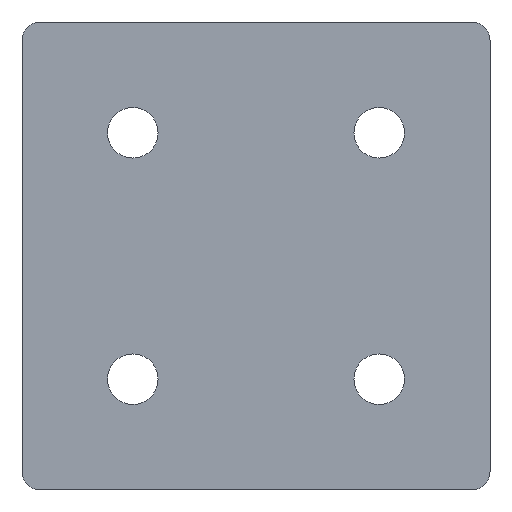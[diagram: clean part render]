
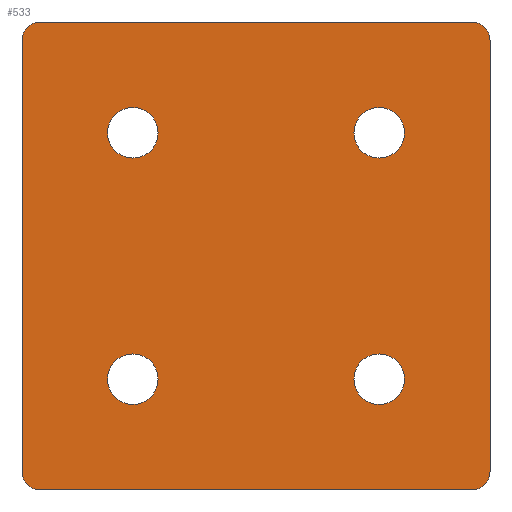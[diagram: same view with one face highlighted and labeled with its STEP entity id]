
A CAD part, front view. The second image highlights one B-rep face of the part: STEP entity #533.
In plain terms, the highlighted planar face has unit normal (0, -1, 0).
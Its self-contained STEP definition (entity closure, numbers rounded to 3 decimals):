
#1 = AXIS2_PLACEMENT_3D ( 'NONE', #100, #239, #466 ) ;
#6 = CARTESIAN_POINT ( 'NONE',  ( -20., 0., 40. ) ) ;
#18 = CARTESIAN_POINT ( 'NONE',  ( 20., 0., 35.9 ) ) ;
#21 = ORIENTED_EDGE ( 'NONE', *, *, #115, .T. ) ;
#24 = DIRECTION ( 'NONE',  ( 1., 0., 0. ) ) ;
#29 = DIRECTION ( 'NONE',  ( 0., 0., 1. ) ) ;
#30 = CIRCLE ( 'NONE', #267, 4.1 ) ;
#33 = CARTESIAN_POINT ( 'NONE',  ( 38., 0., 55. ) ) ;
#37 = ORIENTED_EDGE ( 'NONE', *, *, #93, .F. ) ;
#39 = DIRECTION ( 'NONE',  ( 0., 0., -1. ) ) ;
#40 = CARTESIAN_POINT ( 'NONE',  ( -38., 0., -18. ) ) ;
#44 = CARTESIAN_POINT ( 'NONE',  ( 20., 0., 4.1 ) ) ;
#58 = ORIENTED_EDGE ( 'NONE', *, *, #150, .T. ) ;
#62 = ORIENTED_EDGE ( 'NONE', *, *, #230, .T. ) ;
#66 = AXIS2_PLACEMENT_3D ( 'NONE', #374, #375, #433 ) ;
#70 = FACE_BOUND ( 'NONE', #640, .T. ) ;
#74 = DIRECTION ( 'NONE',  ( 0., 0., -1. ) ) ;
#81 = VECTOR ( 'NONE', #667, 1000. ) ;
#82 = CARTESIAN_POINT ( 'NONE',  ( -20., 0., 0. ) ) ;
#86 = AXIS2_PLACEMENT_3D ( 'NONE', #496, #390, #328 ) ;
#87 = AXIS2_PLACEMENT_3D ( 'NONE', #231, #561, #458 ) ;
#88 = VERTEX_POINT ( 'NONE', #566 ) ;
#93 = EDGE_CURVE ( 'NONE', #88, #284, #624, .T. ) ;
#100 = CARTESIAN_POINT ( 'NONE',  ( -20., 0., 40. ) ) ;
#103 = CIRCLE ( 'NONE', #411, 3. ) ;
#115 = EDGE_CURVE ( 'NONE', #577, #344, #287, .T. ) ;
#126 = DIRECTION ( 'NONE',  ( 0., 0., -1. ) ) ;
#128 = VERTEX_POINT ( 'NONE', #18 ) ;
#130 = AXIS2_PLACEMENT_3D ( 'NONE', #272, #650, #176 ) ;
#135 = CIRCLE ( 'NONE', #259, 4.1 ) ;
#136 = CARTESIAN_POINT ( 'NONE',  ( -20., 0., -4.1 ) ) ;
#138 = VERTEX_POINT ( 'NONE', #520 ) ;
#140 = DIRECTION ( 'NONE',  ( 0., -1., 0. ) ) ;
#142 = VERTEX_POINT ( 'NONE', #568 ) ;
#149 = VECTOR ( 'NONE', #24, 1000. ) ;
#150 = EDGE_CURVE ( 'NONE', #380, #284, #103, .T. ) ;
#153 = ORIENTED_EDGE ( 'NONE', *, *, #581, .F. ) ;
#170 = ORIENTED_EDGE ( 'NONE', *, *, #658, .T. ) ;
#176 = DIRECTION ( 'NONE',  ( 0., 0., 1. ) ) ;
#177 = DIRECTION ( 'NONE',  ( 0., 0., -1. ) ) ;
#182 = DIRECTION ( 'NONE',  ( 0., 1., 0. ) ) ;
#185 = CARTESIAN_POINT ( 'NONE',  ( -38., 0., 58. ) ) ;
#188 = CARTESIAN_POINT ( 'NONE',  ( 38., 0., -18. ) ) ;
#192 = VERTEX_POINT ( 'NONE', #529 ) ;
#198 = VECTOR ( 'NONE', #240, 1000. ) ;
#219 = CARTESIAN_POINT ( 'NONE',  ( -35., 0., 55. ) ) ;
#223 = CARTESIAN_POINT ( 'NONE',  ( 20., 0., 40. ) ) ;
#224 = AXIS2_PLACEMENT_3D ( 'NONE', #501, #601, #74 ) ;
#228 = DIRECTION ( 'NONE',  ( 0., 0., -1. ) ) ;
#230 = EDGE_CURVE ( 'NONE', #627, #138, #492, .T. ) ;
#231 = CARTESIAN_POINT ( 'NONE',  ( -20., 0., 0. ) ) ;
#238 = VERTEX_POINT ( 'NONE', #588 ) ;
#239 = DIRECTION ( 'NONE',  ( 0., 1., 0. ) ) ;
#240 = DIRECTION ( 'NONE',  ( 0., 0., 1. ) ) ;
#244 = CIRCLE ( 'NONE', #86, 4.1 ) ;
#249 = VERTEX_POINT ( 'NONE', #320 ) ;
#259 = AXIS2_PLACEMENT_3D ( 'NONE', #223, #655, #603 ) ;
#260 = VECTOR ( 'NONE', #228, 1000. ) ;
#267 = AXIS2_PLACEMENT_3D ( 'NONE', #6, #312, #357 ) ;
#272 = CARTESIAN_POINT ( 'NONE',  ( 20., 0., 0. ) ) ;
#273 = ORIENTED_EDGE ( 'NONE', *, *, #404, .T. ) ;
#284 = VERTEX_POINT ( 'NONE', #634 ) ;
#287 = CIRCLE ( 'NONE', #1, 4.1 ) ;
#289 = CARTESIAN_POINT ( 'NONE',  ( 35., 0., 55. ) ) ;
#293 = EDGE_LOOP ( 'NONE', ( #381, #273 ) ) ;
#297 = CIRCLE ( 'NONE', #450, 4.1 ) ;
#312 = DIRECTION ( 'NONE',  ( 0., 1., 0. ) ) ;
#320 = CARTESIAN_POINT ( 'NONE',  ( 20., 0., 44.1 ) ) ;
#328 = DIRECTION ( 'NONE',  ( 0., 0., 1. ) ) ;
#330 = PLANE ( 'NONE',  #519 ) ;
#343 = FACE_BOUND ( 'NONE', #293, .T. ) ;
#344 = VERTEX_POINT ( 'NONE', #606 ) ;
#346 = EDGE_LOOP ( 'NONE', ( #614, #438, #459, #58, #37, #531, #153, #62 ) ) ;
#355 = EDGE_CURVE ( 'NONE', #380, #238, #621, .T. ) ;
#357 = DIRECTION ( 'NONE',  ( 0., 0., 1. ) ) ;
#358 = AXIS2_PLACEMENT_3D ( 'NONE', #289, #140, #39 ) ;
#360 = DIRECTION ( 'NONE',  ( 0., 1., 0. ) ) ;
#366 = ORIENTED_EDGE ( 'NONE', *, *, #517, .T. ) ;
#373 = AXIS2_PLACEMENT_3D ( 'NONE', #631, #360, #570 ) ;
#374 = CARTESIAN_POINT ( 'NONE',  ( 35., 0., -15. ) ) ;
#375 = DIRECTION ( 'NONE',  ( 0., -1., 0. ) ) ;
#379 = FACE_OUTER_BOUND ( 'NONE', #346, .T. ) ;
#380 = VERTEX_POINT ( 'NONE', #609 ) ;
#381 = ORIENTED_EDGE ( 'NONE', *, *, #585, .T. ) ;
#384 = DIRECTION ( 'NONE',  ( 0., -1., 0. ) ) ;
#390 = DIRECTION ( 'NONE',  ( 0., 1., 0. ) ) ;
#400 = VERTEX_POINT ( 'NONE', #136 ) ;
#402 = CARTESIAN_POINT ( 'NONE',  ( -20., 0., 35.9 ) ) ;
#404 = EDGE_CURVE ( 'NONE', #400, #142, #297, .T. ) ;
#411 = AXIS2_PLACEMENT_3D ( 'NONE', #219, #384, #126 ) ;
#415 = VERTEX_POINT ( 'NONE', #44 ) ;
#430 = CIRCLE ( 'NONE', #224, 3. ) ;
#433 = DIRECTION ( 'NONE',  ( 0., 0., -1. ) ) ;
#434 = EDGE_CURVE ( 'NONE', #562, #138, #534, .T. ) ;
#438 = ORIENTED_EDGE ( 'NONE', *, *, #591, .T. ) ;
#440 = EDGE_LOOP ( 'NONE', ( #170, #21 ) ) ;
#441 = ORIENTED_EDGE ( 'NONE', *, *, #482, .T. ) ;
#443 = CIRCLE ( 'NONE', #373, 4.1 ) ;
#450 = AXIS2_PLACEMENT_3D ( 'NONE', #82, #182, #29 ) ;
#458 = DIRECTION ( 'NONE',  ( 0., 0., 1. ) ) ;
#459 = ORIENTED_EDGE ( 'NONE', *, *, #355, .F. ) ;
#466 = DIRECTION ( 'NONE',  ( 0., 0., 1. ) ) ;
#482 = EDGE_CURVE ( 'NONE', #128, #249, #135, .T. ) ;
#492 = CIRCLE ( 'NONE', #66, 3. ) ;
#494 = EDGE_CURVE ( 'NONE', #249, #128, #244, .T. ) ;
#495 = CIRCLE ( 'NONE', #87, 4.1 ) ;
#496 = CARTESIAN_POINT ( 'NONE',  ( 20., 0., 40. ) ) ;
#498 = CARTESIAN_POINT ( 'NONE',  ( 0., 0., 0. ) ) ;
#501 = CARTESIAN_POINT ( 'NONE',  ( -35., 0., -15. ) ) ;
#517 = EDGE_CURVE ( 'NONE', #415, #192, #541, .T. ) ;
#519 = AXIS2_PLACEMENT_3D ( 'NONE', #498, #545, #177 ) ;
#520 = CARTESIAN_POINT ( 'NONE',  ( 38., 0., -15. ) ) ;
#521 = EDGE_CURVE ( 'NONE', #88, #569, #430, .T. ) ;
#527 = ORIENTED_EDGE ( 'NONE', *, *, #494, .T. ) ;
#529 = CARTESIAN_POINT ( 'NONE',  ( 20., 0., -4.1 ) ) ;
#531 = ORIENTED_EDGE ( 'NONE', *, *, #521, .T. ) ;
#533 = ADVANCED_FACE ( 'NONE', ( #573, #642, #70, #343, #379 ), #330, .T. ) ;
#534 = LINE ( 'NONE', #556, #260 ) ;
#541 = CIRCLE ( 'NONE', #130, 4.1 ) ;
#545 = DIRECTION ( 'NONE',  ( 0., -1., 0. ) ) ;
#556 = CARTESIAN_POINT ( 'NONE',  ( 38., 0., 58. ) ) ;
#558 = CARTESIAN_POINT ( 'NONE',  ( 35., 0., -18. ) ) ;
#561 = DIRECTION ( 'NONE',  ( 0., 1., 0. ) ) ;
#562 = VERTEX_POINT ( 'NONE', #33 ) ;
#566 = CARTESIAN_POINT ( 'NONE',  ( -38., 0., -15. ) ) ;
#567 = ORIENTED_EDGE ( 'NONE', *, *, #633, .T. ) ;
#568 = CARTESIAN_POINT ( 'NONE',  ( -20., 0., 4.1 ) ) ;
#569 = VERTEX_POINT ( 'NONE', #665 ) ;
#570 = DIRECTION ( 'NONE',  ( 0., 0., 1. ) ) ;
#573 = FACE_BOUND ( 'NONE', #582, .T. ) ;
#577 = VERTEX_POINT ( 'NONE', #402 ) ;
#581 = EDGE_CURVE ( 'NONE', #627, #569, #626, .T. ) ;
#582 = EDGE_LOOP ( 'NONE', ( #527, #441 ) ) ;
#585 = EDGE_CURVE ( 'NONE', #142, #400, #495, .T. ) ;
#588 = CARTESIAN_POINT ( 'NONE',  ( 35., 0., 58. ) ) ;
#591 = EDGE_CURVE ( 'NONE', #562, #238, #656, .T. ) ;
#601 = DIRECTION ( 'NONE',  ( 0., -1., 0. ) ) ;
#603 = DIRECTION ( 'NONE',  ( 0., 0., 1. ) ) ;
#606 = CARTESIAN_POINT ( 'NONE',  ( -20., 0., 44.1 ) ) ;
#609 = CARTESIAN_POINT ( 'NONE',  ( -35., 0., 58. ) ) ;
#614 = ORIENTED_EDGE ( 'NONE', *, *, #434, .F. ) ;
#621 = LINE ( 'NONE', #185, #149 ) ;
#624 = LINE ( 'NONE', #40, #198 ) ;
#626 = LINE ( 'NONE', #188, #81 ) ;
#627 = VERTEX_POINT ( 'NONE', #558 ) ;
#631 = CARTESIAN_POINT ( 'NONE',  ( 20., 0., 0. ) ) ;
#633 = EDGE_CURVE ( 'NONE', #192, #415, #443, .T. ) ;
#634 = CARTESIAN_POINT ( 'NONE',  ( -38., 0., 55. ) ) ;
#640 = EDGE_LOOP ( 'NONE', ( #366, #567 ) ) ;
#642 = FACE_BOUND ( 'NONE', #440, .T. ) ;
#650 = DIRECTION ( 'NONE',  ( 0., 1., 0. ) ) ;
#655 = DIRECTION ( 'NONE',  ( 0., 1., 0. ) ) ;
#656 = CIRCLE ( 'NONE', #358, 3. ) ;
#658 = EDGE_CURVE ( 'NONE', #344, #577, #30, .T. ) ;
#665 = CARTESIAN_POINT ( 'NONE',  ( -35., 0., -18. ) ) ;
#667 = DIRECTION ( 'NONE',  ( -1., 0., 0. ) ) ;
